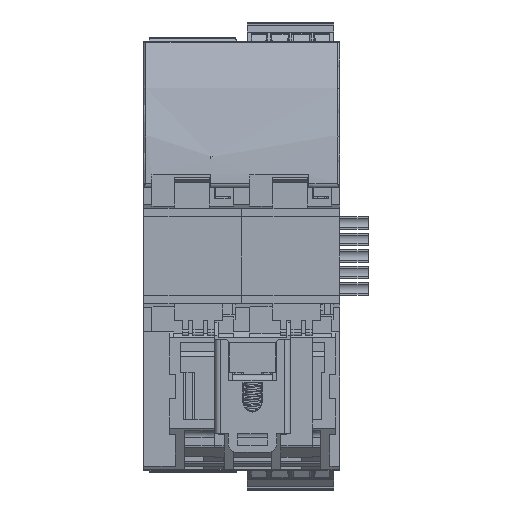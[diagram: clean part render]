
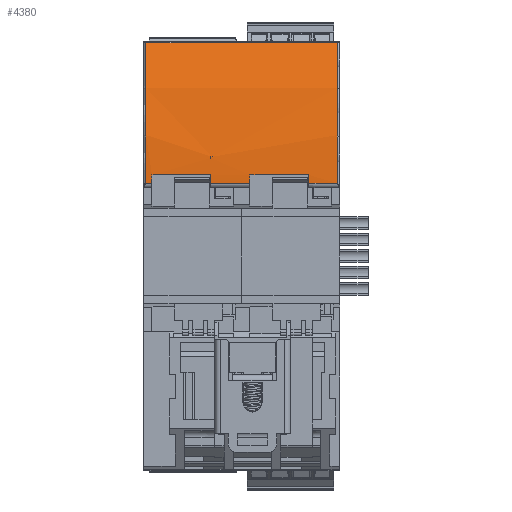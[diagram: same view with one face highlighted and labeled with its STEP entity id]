
A CAD part, left-side view. The second image highlights one B-rep face of the part: STEP entity #4380.
In plain terms, the highlighted cylindrical face has radius 80 mm (diameter 160 mm), a partial arc.
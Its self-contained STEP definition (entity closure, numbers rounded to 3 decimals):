
#4380=ADVANCED_FACE('',(#60916,#60918),#60920,.T.);
#60916=FACE_BOUND('',#60917,.T.);
#60917=EDGE_LOOP('',(#108615,#108616,#108617,#108618,#108619,#108620,#108621,#108622,
#108623,#108624,#108625,#108626));
#60918=FACE_BOUND('',#60919,.T.);
#60919=EDGE_LOOP('',(#108627,#108628,#108629));
#60920=CYLINDRICAL_SURFACE('',#60921,80.);
#60921=AXIS2_PLACEMENT_3D('',#60922,#60923,#60924);
#60922=CARTESIAN_POINT('',(75.75,23.85,13.5));
#60923=DIRECTION('',(0.,1.,0.));
#60924=DIRECTION('',(0.,0.,1.));
#108615=ORIENTED_EDGE('',*,*,#146194,.F.);
#108616=ORIENTED_EDGE('',*,*,#146197,.T.);
#108617=ORIENTED_EDGE('',*,*,#146198,.T.);
#108618=ORIENTED_EDGE('',*,*,#146199,.F.);
#108619=ORIENTED_EDGE('',*,*,#146200,.T.);
#108620=ORIENTED_EDGE('',*,*,#146201,.F.);
#108621=ORIENTED_EDGE('',*,*,#146202,.F.);
#108622=ORIENTED_EDGE('',*,*,#146203,.T.);
#108623=ORIENTED_EDGE('',*,*,#146204,.F.);
#108624=ORIENTED_EDGE('',*,*,#146205,.F.);
#108625=ORIENTED_EDGE('',*,*,#144781,.F.);
#108626=ORIENTED_EDGE('',*,*,#144778,.T.);
#108627=ORIENTED_EDGE('',*,*,#146206,.F.);
#108628=ORIENTED_EDGE('',*,*,#146207,.T.);
#108629=ORIENTED_EDGE('',*,*,#146208,.F.);
#144778=EDGE_CURVE('',#165856,#165857,#165858,.T.);
#144781=EDGE_CURVE('',#165856,#165861,#165862,.T.);
#146194=EDGE_CURVE('',#168385,#165857,#168386,.T.);
#146197=EDGE_CURVE('',#168385,#168390,#168391,.T.);
#146198=EDGE_CURVE('',#168390,#168392,#168393,.T.);
#146199=EDGE_CURVE('',#168394,#168392,#168395,.T.);
#146200=EDGE_CURVE('',#168394,#168396,#168397,.T.);
#146201=EDGE_CURVE('',#168398,#168396,#168399,.T.);
#146202=EDGE_CURVE('',#168400,#168398,#168401,.T.);
#146203=EDGE_CURVE('',#168400,#168402,#168403,.T.);
#146204=EDGE_CURVE('',#168404,#168402,#168405,.T.);
#146205=EDGE_CURVE('',#165861,#168404,#168406,.T.);
#146206=EDGE_CURVE('',#168407,#168408,#168409,.T.);
#146207=EDGE_CURVE('',#168407,#168410,#168411,.T.);
#146208=EDGE_CURVE('',#168408,#168410,#168412,.T.);
#165856=VERTEX_POINT('',#199696);
#165857=VERTEX_POINT('',#199697);
#165858=CIRCLE('',#199698,80.);
#165861=VERTEX_POINT('',#199788);
#165862=LINE('',#199789,#199790);
#168385=VERTEX_POINT('',#206126);
#168386=LINE('',#206127,#206128);
#168390=VERTEX_POINT('',#206156);
#168391=CIRCLE('',#206157,80.);
#168392=VERTEX_POINT('',#206161);
#168393=LINE('',#206162,#206163);
#168394=VERTEX_POINT('',#206165);
#168395=CIRCLE('',#206166,80.);
#168396=VERTEX_POINT('',#206170);
#168397=LINE('',#206171,#206172);
#168398=VERTEX_POINT('',#206174);
#168399=CIRCLE('',#206175,80.);
#168400=VERTEX_POINT('',#206179);
#168401=LINE('',#206180,#206181);
#168402=VERTEX_POINT('',#206183);
#168403=CIRCLE('',#206184,80.);
#168404=VERTEX_POINT('',#206188);
#168405=LINE('',#206189,#206190);
#168406=CIRCLE('',#206192,80.);
#168407=VERTEX_POINT('',#206196);
#168408=VERTEX_POINT('',#206197);
#168409=(BOUNDED_CURVE()B_SPLINE_CURVE(3,
(#206198,#206199,#206200,#206201),
.UNSPECIFIED.,.F.,.F.)B_SPLINE_CURVE_WITH_KNOTS((4,4),
(0.,1.),
.UNSPECIFIED.)CURVE()GEOMETRIC_REPRESENTATION_ITEM()RATIONAL_B_SPLINE_CURVE((1.,
1.,1.,1.))REPRESENTATION_ITEM(''));
#168410=VERTEX_POINT('',#206202);
#168411=CIRCLE('',#206203,80.);
#168412=LINE('',#206207,#206208);
#199696=CARTESIAN_POINT('',(-4.184,0.5,16.741));
#199697=CARTESIAN_POINT('',(4.169,0.5,49.223));
#199698=AXIS2_PLACEMENT_3D('',#199699,#199700,#199701);
#199699=CARTESIAN_POINT('',(75.75,0.5,13.5));
#199700=DIRECTION('',(0.,1.,0.));
#199701=DIRECTION('',(-0.999,0.,0.041));
#199788=CARTESIAN_POINT('',(-4.184,7.1,16.741));
#199789=CARTESIAN_POINT('',(-4.184,0.5,16.741));
#199790=VECTOR('',#199791,1.);
#199791=DIRECTION('',(0.,1.,0.));
#206126=CARTESIAN_POINT('',(4.169,44.7,49.223));
#206127=CARTESIAN_POINT('',(4.169,44.7,49.223));
#206128=VECTOR('',#206129,1.);
#206129=DIRECTION('',(0.,-1.,0.));
#206156=CARTESIAN_POINT('',(-4.184,44.7,16.741));
#206157=AXIS2_PLACEMENT_3D('',#206158,#206159,#206160);
#206158=CARTESIAN_POINT('',(75.75,44.7,13.5));
#206159=DIRECTION('',(0.,-1.,0.));
#206160=DIRECTION('',(-0.895,0.,0.447));
#206161=CARTESIAN_POINT('',(-4.184,43.3,16.741));
#206162=CARTESIAN_POINT('',(-4.184,44.7,16.741));
#206163=VECTOR('',#206164,1.);
#206164=DIRECTION('',(0.,-1.,0.));
#206165=CARTESIAN_POINT('',(-4.081,43.3,18.7));
#206166=AXIS2_PLACEMENT_3D('',#206167,#206168,#206169);
#206167=CARTESIAN_POINT('',(75.75,43.3,13.5));
#206168=DIRECTION('',(0.,-1.,0.));
#206169=DIRECTION('',(-0.998,0.,0.065));
#206170=CARTESIAN_POINT('',(-4.081,29.7,18.7));
#206171=CARTESIAN_POINT('',(-4.081,43.3,18.7));
#206172=VECTOR('',#206173,1.);
#206173=DIRECTION('',(0.,-1.,0.));
#206174=CARTESIAN_POINT('',(-4.184,29.7,16.741));
#206175=AXIS2_PLACEMENT_3D('',#206176,#206177,#206178);
#206176=CARTESIAN_POINT('',(75.75,29.7,13.5));
#206177=DIRECTION('',(0.,1.,0.));
#206178=DIRECTION('',(-0.999,0.,0.041));
#206179=CARTESIAN_POINT('',(-4.184,20.7,16.741));
#206180=CARTESIAN_POINT('',(-4.184,20.7,16.741));
#206181=VECTOR('',#206182,1.);
#206182=DIRECTION('',(0.,1.,0.));
#206183=CARTESIAN_POINT('',(-4.081,20.7,18.7));
#206184=AXIS2_PLACEMENT_3D('',#206185,#206186,#206187);
#206185=CARTESIAN_POINT('',(75.75,20.7,13.5));
#206186=DIRECTION('',(0.,1.,0.));
#206187=DIRECTION('',(-0.999,0.,0.041));
#206188=CARTESIAN_POINT('',(-4.081,7.1,18.7));
#206189=CARTESIAN_POINT('',(-4.081,7.1,18.7));
#206190=VECTOR('',#206191,1.);
#206191=DIRECTION('',(0.,1.,0.));
#206192=AXIS2_PLACEMENT_3D('',#206193,#206194,#206195);
#206193=CARTESIAN_POINT('',(75.75,7.1,13.5));
#206194=DIRECTION('',(0.,1.,0.));
#206195=DIRECTION('',(-0.999,0.,0.041));
#206196=CARTESIAN_POINT('',(-3.731,29.7,22.6));
#206197=CARTESIAN_POINT('',(-3.696,29.4,22.9));
#206198=CARTESIAN_POINT('',(-3.731,29.7,22.6));
#206199=CARTESIAN_POINT('',(-3.719,29.6,22.7));
#206200=CARTESIAN_POINT('',(-3.708,29.5,22.8));
#206201=CARTESIAN_POINT('',(-3.696,29.4,22.9));
#206202=CARTESIAN_POINT('',(-3.696,29.7,22.9));
#206203=AXIS2_PLACEMENT_3D('',#206204,#206205,#206206);
#206204=CARTESIAN_POINT('',(75.75,29.7,13.5));
#206205=DIRECTION('',(0.,1.,0.));
#206206=DIRECTION('',(-0.994,0.,0.114));
#206207=CARTESIAN_POINT('',(-3.696,29.4,22.9));
#206208=VECTOR('',#206209,1.);
#206209=DIRECTION('',(0.,1.,0.));
